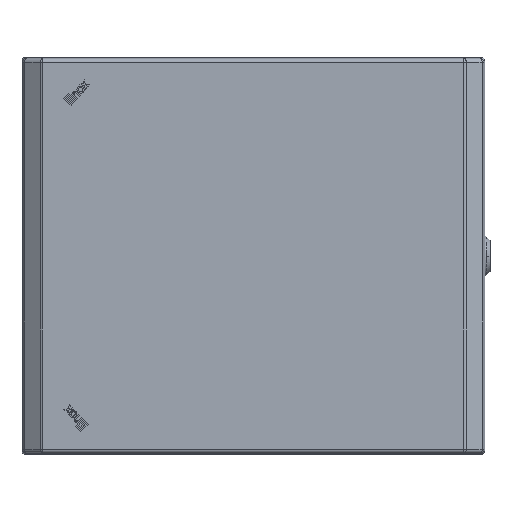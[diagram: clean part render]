
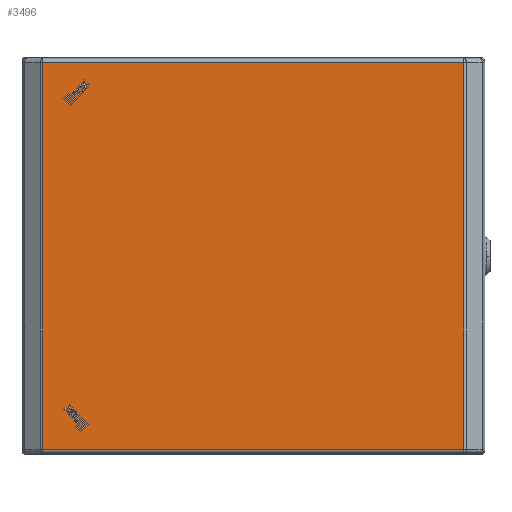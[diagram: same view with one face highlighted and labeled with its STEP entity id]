
A CAD part, top view. The second image highlights one B-rep face of the part: STEP entity #3496.
In plain terms, the highlighted planar face has unit normal (0, 0, 1).
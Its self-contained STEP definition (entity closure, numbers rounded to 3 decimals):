
#368 = LINE ( 'NONE', #24281, #6480 ) ;
#1161 = LINE ( 'NONE', #9150, #8099 ) ;
#1197 = VECTOR ( 'NONE', #23542, 1000. ) ;
#1846 = DIRECTION ( 'NONE',  ( 1., 0., 0. ) ) ;
#1949 = ORIENTED_EDGE ( 'NONE', *, *, #16050, .T. ) ;
#2088 = CARTESIAN_POINT ( 'NONE',  ( -160.25, 146.35, 26.5 ) ) ;
#2232 = EDGE_CURVE ( 'NONE', #7707, #7498, #3420, .T. ) ;
#3420 = LINE ( 'NONE', #9441, #1197 ) ;
#3496 = ADVANCED_FACE ( 'NONE', ( #25381 ), #13621, .T. ) ;
#3657 = ORIENTED_EDGE ( 'NONE', *, *, #2232, .T. ) ;
#6417 = VECTOR ( 'NONE', #10317, 1000. ) ;
#6480 = VECTOR ( 'NONE', #14477, 1000. ) ;
#6779 = ORIENTED_EDGE ( 'NONE', *, *, #7851, .T. ) ;
#7498 = VERTEX_POINT ( 'NONE', #23554 ) ;
#7707 = VERTEX_POINT ( 'NONE', #14389 ) ;
#7851 = EDGE_CURVE ( 'NONE', #17736, #7707, #368, .T. ) ;
#8099 = VECTOR ( 'NONE', #17098, 1000. ) ;
#9150 = CARTESIAN_POINT ( 'NONE',  ( 159.294, -149.35, 26.5 ) ) ;
#9441 = CARTESIAN_POINT ( 'NONE',  ( 160.25, -146.35, 26.5 ) ) ;
#9675 = EDGE_LOOP ( 'NONE', ( #6779, #3657, #25831, #1949 ) ) ;
#10317 = DIRECTION ( 'NONE',  ( -1., 0., 0. ) ) ;
#10826 = VERTEX_POINT ( 'NONE', #24658 ) ;
#10971 = CARTESIAN_POINT ( 'NONE',  ( -159.294, 146.35, 26.5 ) ) ;
#11756 = AXIS2_PLACEMENT_3D ( 'NONE', #25765, #23549, #1846 ) ;
#13621 = PLANE ( 'NONE',  #11756 ) ;
#14389 = CARTESIAN_POINT ( 'NONE',  ( -159.294, -146.35, 26.5 ) ) ;
#14477 = DIRECTION ( 'NONE',  ( 0., -1., 0. ) ) ;
#16050 = EDGE_CURVE ( 'NONE', #10826, #17736, #17772, .T. ) ;
#16403 = EDGE_CURVE ( 'NONE', #7498, #10826, #1161, .T. ) ;
#17098 = DIRECTION ( 'NONE',  ( 0., 1., 0. ) ) ;
#17736 = VERTEX_POINT ( 'NONE', #10971 ) ;
#17772 = LINE ( 'NONE', #2088, #6417 ) ;
#23542 = DIRECTION ( 'NONE',  ( 1., 0., 0. ) ) ;
#23549 = DIRECTION ( 'NONE',  ( 0., 0., 1. ) ) ;
#23554 = CARTESIAN_POINT ( 'NONE',  ( 159.294, -146.35, 26.5 ) ) ;
#24281 = CARTESIAN_POINT ( 'NONE',  ( -159.294, -149.35, 26.5 ) ) ;
#24658 = CARTESIAN_POINT ( 'NONE',  ( 159.294, 146.35, 26.5 ) ) ;
#25381 = FACE_OUTER_BOUND ( 'NONE', #9675, .T. ) ;
#25765 = CARTESIAN_POINT ( 'NONE',  ( 174.35, -149.35, 26.5 ) ) ;
#25831 = ORIENTED_EDGE ( 'NONE', *, *, #16403, .T. ) ;
